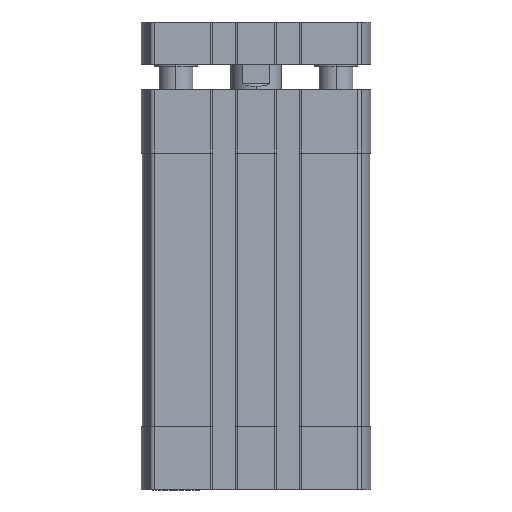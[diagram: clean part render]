
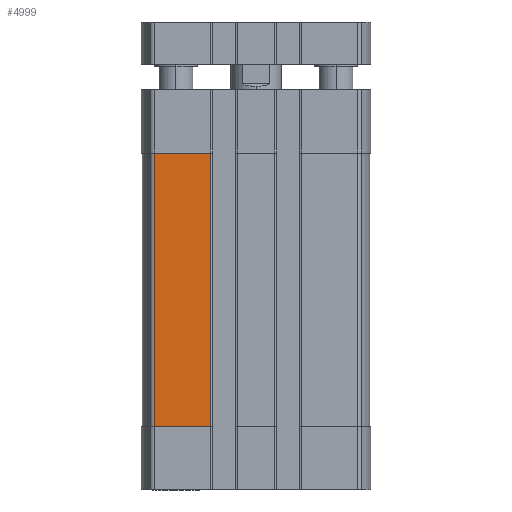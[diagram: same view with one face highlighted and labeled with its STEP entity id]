
A CAD part, front view. The second image highlights one B-rep face of the part: STEP entity #4999.
In plain terms, the highlighted planar face has unit normal (0, -1, 0) as drawn and (-1, 0, 0) by its records, which use the part's own axes.
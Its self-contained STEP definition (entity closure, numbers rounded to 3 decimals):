
#269 = VERTEX_POINT ( 'NONE', #1583 ) ;
#500 = VECTOR ( 'NONE', #4271, 1000. ) ;
#555 = ORIENTED_EDGE ( 'NONE', *, *, #6111, .T. ) ;
#716 = CARTESIAN_POINT ( 'NONE',  ( -27., 24.093, -80. ) ) ;
#1290 = EDGE_LOOP ( 'NONE', ( #555, #11831, #7105, #15348 ) ) ;
#1583 = CARTESIAN_POINT ( 'NONE',  ( -27., 10.7, -80. ) ) ;
#2086 = FACE_OUTER_BOUND ( 'NONE', #1290, .T. ) ;
#2458 = CARTESIAN_POINT ( 'NONE',  ( -27., 10.7, -80. ) ) ;
#2596 = CARTESIAN_POINT ( 'NONE',  ( -27., 10.7, -15. ) ) ;
#4271 = DIRECTION ( 'NONE',  ( 0., 0., 1. ) ) ;
#4336 = CARTESIAN_POINT ( 'NONE',  ( -27., 24.093, -80. ) ) ;
#4999 = ADVANCED_FACE ( 'NONE', ( #2086 ), #18725, .T. ) ;
#5807 = VECTOR ( 'NONE', #18733, 1000. ) ;
#6111 = EDGE_CURVE ( 'NONE', #20701, #269, #17081, .T. ) ;
#6329 = CARTESIAN_POINT ( 'NONE',  ( -27., 24.093, -80. ) ) ;
#7105 = ORIENTED_EDGE ( 'NONE', *, *, #19988, .T. ) ;
#7384 = LINE ( 'NONE', #20508, #15728 ) ;
#7726 = EDGE_CURVE ( 'NONE', #269, #8398, #9988, .T. ) ;
#8077 = DIRECTION ( 'NONE',  ( 0., 0., 1. ) ) ;
#8398 = VERTEX_POINT ( 'NONE', #2596 ) ;
#9787 = CARTESIAN_POINT ( 'NONE',  ( -27., 24.093, -15. ) ) ;
#9988 = LINE ( 'NONE', #2458, #500 ) ;
#11570 = DIRECTION ( 'NONE',  ( 0., 1., 0. ) ) ;
#11831 = ORIENTED_EDGE ( 'NONE', *, *, #7726, .T. ) ;
#11834 = EDGE_CURVE ( 'NONE', #13146, #20701, #20021, .T. ) ;
#13146 = VERTEX_POINT ( 'NONE', #9787 ) ;
#13174 = DIRECTION ( 'NONE',  ( 0., -1., 0. ) ) ;
#14908 = AXIS2_PLACEMENT_3D ( 'NONE', #6329, #18815, #8077 ) ;
#15348 = ORIENTED_EDGE ( 'NONE', *, *, #11834, .T. ) ;
#15482 = CARTESIAN_POINT ( 'NONE',  ( -27., 24.093, -80. ) ) ;
#15728 = VECTOR ( 'NONE', #11570, 1000. ) ;
#17081 = LINE ( 'NONE', #716, #21837 ) ;
#18725 = PLANE ( 'NONE',  #14908 ) ;
#18733 = DIRECTION ( 'NONE',  ( 0., 0., -1. ) ) ;
#18815 = DIRECTION ( 'NONE',  ( -1., 0., 0. ) ) ;
#19988 = EDGE_CURVE ( 'NONE', #8398, #13146, #7384, .T. ) ;
#20021 = LINE ( 'NONE', #4336, #5807 ) ;
#20508 = CARTESIAN_POINT ( 'NONE',  ( -27., 0., -15. ) ) ;
#20701 = VERTEX_POINT ( 'NONE', #15482 ) ;
#21837 = VECTOR ( 'NONE', #13174, 1000. ) ;
